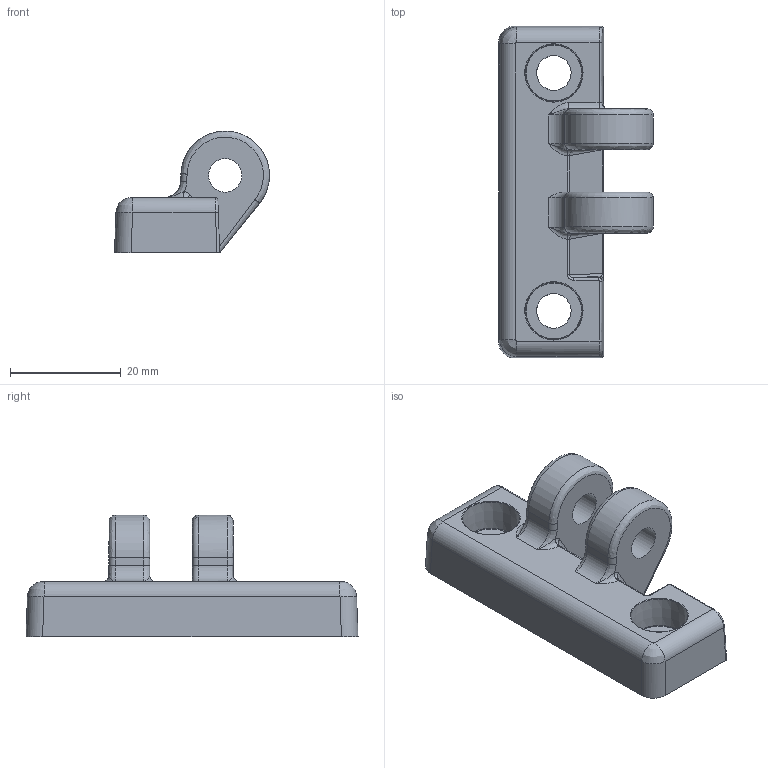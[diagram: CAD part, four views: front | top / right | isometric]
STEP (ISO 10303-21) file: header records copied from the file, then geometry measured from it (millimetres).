
FILE_DESCRIPTION (( 'STEP AP214' ), '1' );
FILE_NAME ('L19180A.step', '2024-12-03T16:23:41', ( '' ), ( '' ), 'SwSTEP 2.0', 'SolidWorks 2023', '' );
FILE_SCHEMA (( 'AUTOMOTIVE_DESIGN' ));
Length unit declared in the file: millimetre
Products named in the file (1): L19180A
Bounding box: 28 x 60 x 22 mm (x, y, z)
Volume: 11812.1 mm3; surface area: 5460.5 mm2
Topology: 1 solids, 1 shells, 108 faces, 268 edges, 163 vertices
Faces by surface type: bspline 36, plane 34, cylinder 25, torus 9, cone 4
Full cylindrical faces by diameter (mm): 6.05 x2, 8 x2
Entity records: 9229 total; most frequent: CARTESIAN_POINT 7119, ORIENTED_EDGE 480, DIRECTION 333, EDGE_CURVE 240, VERTEX_POINT 154, EDGE_LOOP 136, AXIS2_PLACEMENT_3D 119, FACE_OUTER_BOUND 118
